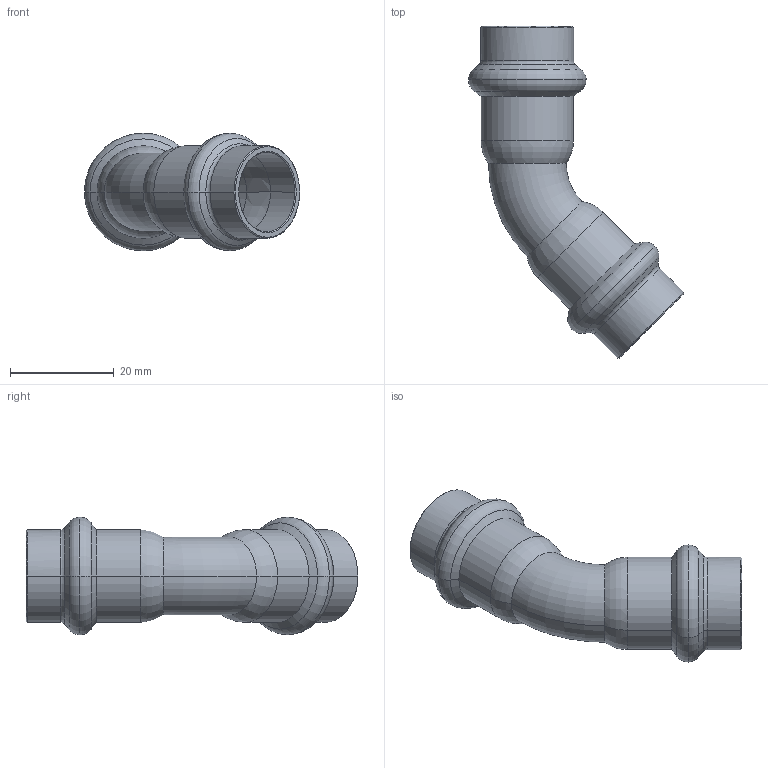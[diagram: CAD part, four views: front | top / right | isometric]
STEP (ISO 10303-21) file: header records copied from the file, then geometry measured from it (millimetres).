
FILE_DESCRIPTION(('CoCreate Modeling STEP Export'),'2;1');
FILE_NAME('8041VW15.stp','2013-01-29T14:17:46',(''),(''),'CoCreate Modeling STEP processor for AP214 (Solid Model)','CoCreate Modeling 17.00A 17-Jun-2010 (C) Parametric Technology GmbH','');
FILE_SCHEMA(('AUTOMOTIVE_DESIGN { 1 0 10303 214 1 1 1 1 }'));
Length unit declared in the file: millimetre
Products named in the file (1): 8041VW15
Bounding box: 41.5 x 64.04 x 22.69 mm (x, y, z)
Volume: 5762.8 mm3; surface area: 7420.1 mm2
Topology: 1 solids, 1 shells, 78 faces, 164 edges, 92 vertices
Faces by surface type: torus 32, cylinder 20, cone 20, plane 6
Entity records: 2098 total; most frequent: CARTESIAN_POINT 655, ORIENTED_EDGE 328, DIRECTION 272, EDGE_CURVE 164, AXIS2_PLACEMENT_3D 116, VERTEX_POINT 92, EDGE_LOOP 84, FACE_OUTER_BOUND 78
